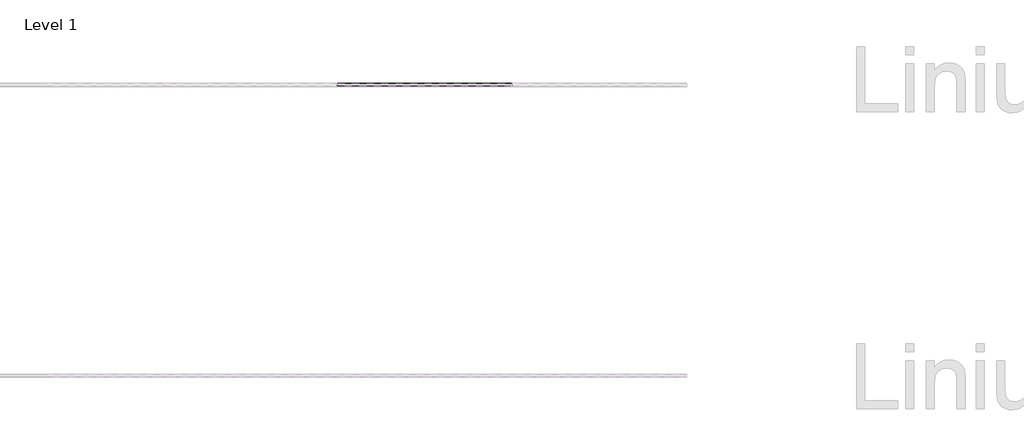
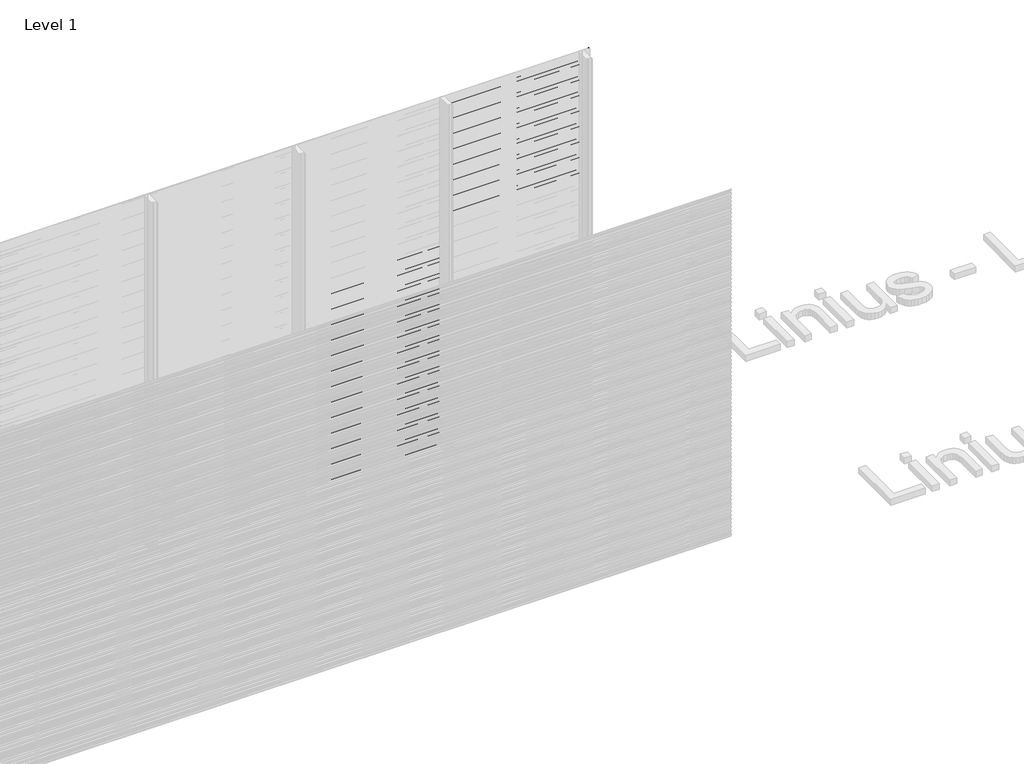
# One storey, part 27 of 507: 84 proxies.
"""IFC4 building model written with IfcOpenShell, lengths in millimetres."""

from ifc_helpers import new_model, si_unit, frame, origin, place, context, project, spatial, polyline, outline, extrude, element, save

model = new_model("IFC4")

# Units and contexts
model_context = context("Model", 3, world=origin())
ifc_project = project(units=[si_unit("LENGTHUNIT", "METRE", prefix="MILLI")], contexts=[model_context])

# Site, building, storey
site = spatial("IfcSite", under=ifc_project)
building = spatial("IfcBuilding", under=site)
storey = spatial("IfcBuildingStorey", under=building, Name="Level 1", Elevation=0.0)

# Proxies
placement = place(None, origin())
element("IfcBuildingElementProxy", 1, Name="Wall Sweeps", at=placement, inside=storey, context=model_context, shape_type="SweptSolid", body=[
    extrude(outline(polyline([(14003.4540136, 1707.6), (14003.4540136, 1694.1), (14002.2040136, 1694.8216933), (14002.2040136, 1706.8782281), (13983.0540136, 1717.9345698), (13983.0540136, 1731.6), (13984.3040136, 1731.6), (13984.3040136, 1718.6562577), (14003.4540136, 1707.6)])), frame((48566.6208096, 0.0, 0.0), z_axis=(1.0, 0.0, 0.0), x_axis=(0.0, 1.0, 0.0)), (0.0, 0.0, 1.0), 1199.9999999),
])
element("IfcBuildingElementProxy", 2, Name="Wall Sweeps", at=placement, inside=storey, context=model_context, shape_type="SweptSolid", body=[
    extrude(outline(polyline([(14003.4540136, 1674.3), (14003.4540136, 1660.8), (14002.2040136, 1661.5216933), (14002.2040136, 1673.5782281), (13983.0540136, 1684.6345698), (13983.0540136, 1698.3), (13984.3040136, 1698.3), (13984.3040136, 1685.3562577), (14003.4540136, 1674.3)])), frame((48566.6208096, 0.0, 0.0), z_axis=(1.0, 0.0, 0.0), x_axis=(0.0, 1.0, 0.0)), (0.0, 0.0, 1.0), 1199.9999999),
])
element("IfcBuildingElementProxy", 3, Name="Wall Sweeps", at=placement, inside=storey, context=model_context, shape_type="SweptSolid", body=[
    extrude(outline(polyline([(14003.4540136, 1641.0), (14003.4540136, 1627.5), (14002.2040136, 1628.2216933), (14002.2040136, 1640.2782281), (13983.0540136, 1651.3345698), (13983.0540136, 1665.0), (13984.3040136, 1665.0), (13984.3040136, 1652.0562577), (14003.4540136, 1641.0)])), frame((48566.6208096, 0.0, 0.0), z_axis=(1.0, 0.0, 0.0), x_axis=(0.0, 1.0, 0.0)), (0.0, 0.0, 1.0), 1199.9999999),
])
element("IfcBuildingElementProxy", 4, Name="Wall Sweeps", at=placement, inside=storey, context=model_context, shape_type="SweptSolid", body=[
    extrude(outline(polyline([(14003.4540136, 1607.7), (14003.4540136, 1594.2), (14002.2040136, 1594.9216933), (14002.2040136, 1606.9782281), (13983.0540136, 1618.0345698), (13983.0540136, 1631.7), (13984.3040136, 1631.7), (13984.3040136, 1618.7562577), (14003.4540136, 1607.7)])), frame((48566.6208096, 0.0, 0.0), z_axis=(1.0, 0.0, 0.0), x_axis=(0.0, 1.0, 0.0)), (0.0, 0.0, 1.0), 1199.9999999),
])
element("IfcBuildingElementProxy", 5, Name="Wall Sweeps", at=placement, inside=storey, context=model_context, shape_type="SweptSolid", body=[
    extrude(outline(polyline([(14003.4540136, 1574.4), (14003.4540136, 1560.9), (14002.2040136, 1561.6216933), (14002.2040136, 1573.6782281), (13983.0540136, 1584.7345698), (13983.0540136, 1598.4), (13984.3040136, 1598.4), (13984.3040136, 1585.4562577), (14003.4540136, 1574.4)])), frame((48566.6208096, 0.0, 0.0), z_axis=(1.0, 0.0, 0.0), x_axis=(0.0, 1.0, 0.0)), (0.0, 0.0, 1.0), 1199.9999999),
])
element("IfcBuildingElementProxy", 6, Name="Wall Sweeps", at=placement, inside=storey, context=model_context, shape_type="SweptSolid", body=[
    extrude(outline(polyline([(14003.4540136, 1541.1), (14003.4540136, 1527.6), (14002.2040136, 1528.3216933), (14002.2040136, 1540.3782281), (13983.0540136, 1551.4345698), (13983.0540136, 1565.1), (13984.3040136, 1565.1), (13984.3040136, 1552.1562577), (14003.4540136, 1541.1)])), frame((48566.6208096, 0.0, 0.0), z_axis=(1.0, 0.0, 0.0), x_axis=(0.0, 1.0, 0.0)), (0.0, 0.0, 1.0), 1199.9999999),
])
element("IfcBuildingElementProxy", 7, Name="Wall Sweeps", at=placement, inside=storey, context=model_context, shape_type="SweptSolid", body=[
    extrude(outline(polyline([(14003.4540136, 1507.8), (14003.4540136, 1494.3), (14002.2040136, 1495.0216933), (14002.2040136, 1507.0782281), (13983.0540136, 1518.1345698), (13983.0540136, 1531.8), (13984.3040136, 1531.8), (13984.3040136, 1518.8562577), (14003.4540136, 1507.8)])), frame((48566.6208096, 0.0, 0.0), z_axis=(1.0, 0.0, 0.0), x_axis=(0.0, 1.0, 0.0)), (0.0, 0.0, 1.0), 1199.9999999),
])
element("IfcBuildingElementProxy", 8, Name="Wall Sweeps", at=placement, inside=storey, context=model_context, shape_type="SweptSolid", body=[
    extrude(outline(polyline([(14003.4540136, 1474.5), (14003.4540136, 1461.0), (14002.2040136, 1461.7216933), (14002.2040136, 1473.7782281), (13983.0540136, 1484.8345698), (13983.0540136, 1498.5), (13984.3040136, 1498.5), (13984.3040136, 1485.5562577), (14003.4540136, 1474.5)])), frame((48566.6208096, 0.0, 0.0), z_axis=(1.0, 0.0, 0.0), x_axis=(0.0, 1.0, 0.0)), (0.0, 0.0, 1.0), 1199.9999999),
])
element("IfcBuildingElementProxy", 9, Name="Wall Sweeps", at=placement, inside=storey, context=model_context, shape_type="SweptSolid", body=[
    extrude(outline(polyline([(14003.4540136, 1441.2), (14003.4540136, 1427.7), (14002.2040136, 1428.4216933), (14002.2040136, 1440.4782281), (13983.0540136, 1451.5345698), (13983.0540136, 1465.2), (13984.3040136, 1465.2), (13984.3040136, 1452.2562577), (14003.4540136, 1441.2)])), frame((48566.6208096, 0.0, 0.0), z_axis=(1.0, 0.0, 0.0), x_axis=(0.0, 1.0, 0.0)), (0.0, 0.0, 1.0), 1199.9999999),
])
element("IfcBuildingElementProxy", 10, Name="Wall Sweeps", at=placement, inside=storey, context=model_context, shape_type="SweptSolid", body=[
    extrude(outline(polyline([(14003.4540136, 1407.9), (14003.4540136, 1394.4), (14002.2040136, 1395.1216933), (14002.2040136, 1407.1782281), (13983.0540136, 1418.2345698), (13983.0540136, 1431.9), (13984.3040136, 1431.9), (13984.3040136, 1418.9562577), (14003.4540136, 1407.9)])), frame((48566.6208096, 0.0, 0.0), z_axis=(1.0, 0.0, 0.0), x_axis=(0.0, 1.0, 0.0)), (0.0, 0.0, 1.0), 1199.9999999),
])
element("IfcBuildingElementProxy", 11, Name="Wall Sweeps", at=placement, inside=storey, context=model_context, shape_type="SweptSolid", body=[
    extrude(outline(polyline([(14003.4540136, 1374.6), (14003.4540136, 1361.1), (14002.2040136, 1361.8216933), (14002.2040136, 1373.8782281), (13983.0540136, 1384.9345698), (13983.0540136, 1398.6), (13984.3040136, 1398.6), (13984.3040136, 1385.6562577), (14003.4540136, 1374.6)])), frame((48566.6208096, 0.0, 0.0), z_axis=(1.0, 0.0, 0.0), x_axis=(0.0, 1.0, 0.0)), (0.0, 0.0, 1.0), 1199.9999999),
])
element("IfcBuildingElementProxy", 12, Name="Wall Sweeps", at=placement, inside=storey, context=model_context, shape_type="SweptSolid", body=[
    extrude(outline(polyline([(14003.4540136, 1341.3), (14003.4540136, 1327.8), (14002.2040136, 1328.5216933), (14002.2040136, 1340.5782281), (13983.0540136, 1351.6345698), (13983.0540136, 1365.3), (13984.3040136, 1365.3), (13984.3040136, 1352.3562577), (14003.4540136, 1341.3)])), frame((48566.6208096, 0.0, 0.0), z_axis=(1.0, 0.0, 0.0), x_axis=(0.0, 1.0, 0.0)), (0.0, 0.0, 1.0), 1199.9999999),
])
element("IfcBuildingElementProxy", 13, Name="Wall Sweeps", at=placement, inside=storey, context=model_context, shape_type="SweptSolid", body=[
    extrude(outline(polyline([(14003.4540136, 1308.0), (14003.4540136, 1294.5), (14002.2040136, 1295.2216933), (14002.2040136, 1307.2782281), (13983.0540136, 1318.3345698), (13983.0540136, 1332.0), (13984.3040136, 1332.0), (13984.3040136, 1319.0562577), (14003.4540136, 1308.0)])), frame((48566.6208096, 0.0, 0.0), z_axis=(1.0, 0.0, 0.0), x_axis=(0.0, 1.0, 0.0)), (0.0, 0.0, 1.0), 1199.9999999),
])
element("IfcBuildingElementProxy", 14, Name="Wall Sweeps", at=placement, inside=storey, context=model_context, shape_type="SweptSolid", body=[
    extrude(outline(polyline([(14003.4540136, 1274.7), (14003.4540136, 1261.2), (14002.2040136, 1261.9216933), (14002.2040136, 1273.9782281), (13983.0540136, 1285.0345698), (13983.0540136, 1298.7), (13984.3040136, 1298.7), (13984.3040136, 1285.7562577), (14003.4540136, 1274.7)])), frame((48566.6208096, 0.0, 0.0), z_axis=(1.0, 0.0, 0.0), x_axis=(0.0, 1.0, 0.0)), (0.0, 0.0, 1.0), 1199.9999999),
])
element("IfcBuildingElementProxy", 15, Name="Wall Sweeps", at=placement, inside=storey, context=model_context, shape_type="SweptSolid", body=[
    extrude(outline(polyline([(14003.4540136, 1241.4), (14003.4540136, 1227.9), (14002.2040136, 1228.6216933), (14002.2040136, 1240.6782281), (13983.0540136, 1251.7345698), (13983.0540136, 1265.4), (13984.3040136, 1265.4), (13984.3040136, 1252.4562577), (14003.4540136, 1241.4)])), frame((48566.6208096, 0.0, 0.0), z_axis=(1.0, 0.0, 0.0), x_axis=(0.0, 1.0, 0.0)), (0.0, 0.0, 1.0), 1199.9999999),
])
element("IfcBuildingElementProxy", 16, Name="Wall Sweeps", at=placement, inside=storey, context=model_context, shape_type="SweptSolid", body=[
    extrude(outline(polyline([(14003.4540136, 1208.1), (14003.4540136, 1194.6), (14002.2040136, 1195.3216933), (14002.2040136, 1207.3782281), (13983.0540136, 1218.4345698), (13983.0540136, 1232.1), (13984.3040136, 1232.1), (13984.3040136, 1219.1562577), (14003.4540136, 1208.1)])), frame((48566.6208096, 0.0, 0.0), z_axis=(1.0, 0.0, 0.0), x_axis=(0.0, 1.0, 0.0)), (0.0, 0.0, 1.0), 1199.9999999),
])
element("IfcBuildingElementProxy", 17, Name="Wall Sweeps", at=placement, inside=storey, context=model_context, shape_type="SweptSolid", body=[
    extrude(outline(polyline([(14003.4540136, 1174.8), (14003.4540136, 1161.3), (14002.2040136, 1162.0216933), (14002.2040136, 1174.0782281), (13983.0540136, 1185.1345698), (13983.0540136, 1198.8), (13984.3040136, 1198.8), (13984.3040136, 1185.8562577), (14003.4540136, 1174.8)])), frame((48566.6208096, 0.0, 0.0), z_axis=(1.0, 0.0, 0.0), x_axis=(0.0, 1.0, 0.0)), (0.0, 0.0, 1.0), 1199.9999999),
])
element("IfcBuildingElementProxy", 18, Name="Wall Sweeps", at=placement, inside=storey, context=model_context, shape_type="SweptSolid", body=[
    extrude(outline(polyline([(14003.4540136, 1141.5), (14003.4540136, 1128.0), (14002.2040136, 1128.7216933), (14002.2040136, 1140.7782281), (13983.0540136, 1151.8345698), (13983.0540136, 1165.5), (13984.3040136, 1165.5), (13984.3040136, 1152.5562577), (14003.4540136, 1141.5)])), frame((48566.6208096, 0.0, 0.0), z_axis=(1.0, 0.0, 0.0), x_axis=(0.0, 1.0, 0.0)), (0.0, 0.0, 1.0), 1199.9999999),
])
element("IfcBuildingElementProxy", 19, Name="Wall Sweeps", at=placement, inside=storey, context=model_context, shape_type="SweptSolid", body=[
    extrude(outline(polyline([(14003.4540136, 1108.2), (14003.4540136, 1094.7), (14002.2040136, 1095.4216933), (14002.2040136, 1107.4782281), (13983.0540136, 1118.5345698), (13983.0540136, 1132.2), (13984.3040136, 1132.2), (13984.3040136, 1119.2562577), (14003.4540136, 1108.2)])), frame((48566.6208096, 0.0, 0.0), z_axis=(1.0, 0.0, 0.0), x_axis=(0.0, 1.0, 0.0)), (0.0, 0.0, 1.0), 1199.9999999),
])
element("IfcBuildingElementProxy", 20, Name="Wall Sweeps", at=placement, inside=storey, context=model_context, shape_type="SweptSolid", body=[
    extrude(outline(polyline([(14003.4540136, 1074.9), (14003.4540136, 1061.4), (14002.2040136, 1062.1216933), (14002.2040136, 1074.1782281), (13983.0540136, 1085.2345698), (13983.0540136, 1098.9), (13984.3040136, 1098.9), (13984.3040136, 1085.9562577), (14003.4540136, 1074.9)])), frame((48566.6208096, 0.0, 0.0), z_axis=(1.0, 0.0, 0.0), x_axis=(0.0, 1.0, 0.0)), (0.0, 0.0, 1.0), 1199.9999999),
])
element("IfcBuildingElementProxy", 21, Name="Wall Sweeps", at=placement, inside=storey, context=model_context, shape_type="SweptSolid", body=[
    extrude(outline(polyline([(14003.4540136, 1041.6), (14003.4540136, 1028.1), (14002.2040136, 1028.8216933), (14002.2040136, 1040.8782281), (13983.0540136, 1051.9345698), (13983.0540136, 1065.6), (13984.3040136, 1065.6), (13984.3040136, 1052.6562577), (14003.4540136, 1041.6)])), frame((48566.6208096, 0.0, 0.0), z_axis=(1.0, 0.0, 0.0), x_axis=(0.0, 1.0, 0.0)), (0.0, 0.0, 1.0), 1199.9999999),
])
element("IfcBuildingElementProxy", 22, Name="Wall Sweeps", at=placement, inside=storey, context=model_context, shape_type="SweptSolid", body=[
    extrude(outline(polyline([(14003.4540136, 1008.3), (14003.4540136, 994.8), (14002.2040136, 995.5216933), (14002.2040136, 1007.5782281), (13983.0540136, 1018.6345698), (13983.0540136, 1032.3), (13984.3040136, 1032.3), (13984.3040136, 1019.3562577), (14003.4540136, 1008.3)])), frame((48566.6208096, 0.0, 0.0), z_axis=(1.0, 0.0, 0.0), x_axis=(0.0, 1.0, 0.0)), (0.0, 0.0, 1.0), 1199.9999999),
])
element("IfcBuildingElementProxy", 23, Name="Wall Sweeps", at=placement, inside=storey, context=model_context, shape_type="SweptSolid", body=[
    extrude(outline(polyline([(14003.4540136, 975.0), (14003.4540136, 961.5), (14002.2040136, 962.2216933), (14002.2040136, 974.2782281), (13983.0540136, 985.3345698), (13983.0540136, 999.0), (13984.3040136, 999.0), (13984.3040136, 986.0562577), (14003.4540136, 975.0)])), frame((48566.6208096, 0.0, 0.0), z_axis=(1.0, 0.0, 0.0), x_axis=(0.0, 1.0, 0.0)), (0.0, 0.0, 1.0), 1199.9999999),
])
element("IfcBuildingElementProxy", 24, Name="Wall Sweeps", at=placement, inside=storey, context=model_context, shape_type="SweptSolid", body=[
    extrude(outline(polyline([(14003.4540136, 941.7), (14003.4540136, 928.2), (14002.2040136, 928.9216933), (14002.2040136, 940.9782281), (13983.0540136, 952.0345698), (13983.0540136, 965.7), (13984.3040136, 965.7), (13984.3040136, 952.7562577), (14003.4540136, 941.7)])), frame((48566.6208096, 0.0, 0.0), z_axis=(1.0, 0.0, 0.0), x_axis=(0.0, 1.0, 0.0)), (0.0, 0.0, 1.0), 1199.9999999),
])
element("IfcBuildingElementProxy", 25, Name="Wall Sweeps", at=placement, inside=storey, context=model_context, shape_type="SweptSolid", body=[
    extrude(outline(polyline([(14003.4540136, 908.4), (14003.4540136, 894.9), (14002.2040136, 895.6216933), (14002.2040136, 907.6782281), (13983.0540136, 918.7345698), (13983.0540136, 932.4), (13984.3040136, 932.4), (13984.3040136, 919.4562577), (14003.4540136, 908.4)])), frame((48566.6208096, 0.0, 0.0), z_axis=(1.0, 0.0, 0.0), x_axis=(0.0, 1.0, 0.0)), (0.0, 0.0, 1.0), 1199.9999999),
])
element("IfcBuildingElementProxy", 26, Name="Wall Sweeps", at=placement, inside=storey, context=model_context, shape_type="SweptSolid", body=[
    extrude(outline(polyline([(14003.4540136, 875.1), (14003.4540136, 861.6), (14002.2040136, 862.3216933), (14002.2040136, 874.3782281), (13983.0540136, 885.4345698), (13983.0540136, 899.1), (13984.3040136, 899.1), (13984.3040136, 886.1562577), (14003.4540136, 875.1)])), frame((48566.6208096, 0.0, 0.0), z_axis=(1.0, 0.0, 0.0), x_axis=(0.0, 1.0, 0.0)), (0.0, 0.0, 1.0), 1199.9999999),
])
element("IfcBuildingElementProxy", 27, Name="Wall Sweeps", at=placement, inside=storey, context=model_context, shape_type="SweptSolid", body=[
    extrude(outline(polyline([(14003.4540136, 841.8), (14003.4540136, 828.3), (14002.2040136, 829.0216933), (14002.2040136, 841.0782281), (13983.0540136, 852.1345698), (13983.0540136, 865.8), (13984.3040136, 865.8), (13984.3040136, 852.8562577), (14003.4540136, 841.8)])), frame((48566.6208096, 0.0, 0.0), z_axis=(1.0, 0.0, 0.0), x_axis=(0.0, 1.0, 0.0)), (0.0, 0.0, 1.0), 1199.9999999),
])
element("IfcBuildingElementProxy", 28, Name="Wall Sweeps", at=placement, inside=storey, context=model_context, shape_type="SweptSolid", body=[
    extrude(outline(polyline([(14003.4540136, 808.5), (14003.4540136, 795.0), (14002.2040136, 795.7216933), (14002.2040136, 807.7782281), (13983.0540136, 818.8345698), (13983.0540136, 832.5), (13984.3040136, 832.5), (13984.3040136, 819.5562577), (14003.4540136, 808.5)])), frame((48566.6208096, 0.0, 0.0), z_axis=(1.0, 0.0, 0.0), x_axis=(0.0, 1.0, 0.0)), (0.0, 0.0, 1.0), 1199.9999999),
])
element("IfcBuildingElementProxy", 29, Name="Wall Sweeps", at=placement, inside=storey, context=model_context, shape_type="SweptSolid", body=[
    extrude(outline(polyline([(14003.4540136, 775.2), (14003.4540136, 761.7), (14002.2040136, 762.4216933), (14002.2040136, 774.4782281), (13983.0540136, 785.5345698), (13983.0540136, 799.2), (13984.3040136, 799.2), (13984.3040136, 786.2562577), (14003.4540136, 775.2)])), frame((48566.6208096, 0.0, 0.0), z_axis=(1.0, 0.0, 0.0), x_axis=(0.0, 1.0, 0.0)), (0.0, 0.0, 1.0), 1199.9999999),
])
element("IfcBuildingElementProxy", 30, Name="Wall Sweeps", at=placement, inside=storey, context=model_context, shape_type="SweptSolid", body=[
    extrude(outline(polyline([(14003.4540136, 741.9), (14003.4540136, 728.4), (14002.2040136, 729.1216933), (14002.2040136, 741.1782281), (13983.0540136, 752.2345698), (13983.0540136, 765.9), (13984.3040136, 765.9), (13984.3040136, 752.9562577), (14003.4540136, 741.9)])), frame((48566.6208096, 0.0, 0.0), z_axis=(1.0, 0.0, 0.0), x_axis=(0.0, 1.0, 0.0)), (0.0, 0.0, 1.0), 1199.9999999),
])
element("IfcBuildingElementProxy", 31, Name="Wall Sweeps", at=placement, inside=storey, context=model_context, shape_type="SweptSolid", body=[
    extrude(outline(polyline([(14003.4540136, 708.6), (14003.4540136, 695.1), (14002.2040136, 695.8216933), (14002.2040136, 707.8782281), (13983.0540136, 718.9345698), (13983.0540136, 732.6), (13984.3040136, 732.6), (13984.3040136, 719.6562577), (14003.4540136, 708.6)])), frame((48566.6208096, 0.0, 0.0), z_axis=(1.0, 0.0, 0.0), x_axis=(0.0, 1.0, 0.0)), (0.0, 0.0, 1.0), 1199.9999999),
])
element("IfcBuildingElementProxy", 32, Name="Wall Sweeps", at=placement, inside=storey, context=model_context, shape_type="SweptSolid", body=[
    extrude(outline(polyline([(14003.4540136, 675.3), (14003.4540136, 661.8), (14002.2040136, 662.5216933), (14002.2040136, 674.5782281), (13983.0540136, 685.6345698), (13983.0540136, 699.3), (13984.3040136, 699.3), (13984.3040136, 686.3562577), (14003.4540136, 675.3)])), frame((48566.6208096, 0.0, 0.0), z_axis=(1.0, 0.0, 0.0), x_axis=(0.0, 1.0, 0.0)), (0.0, 0.0, 1.0), 1199.9999999),
])
element("IfcBuildingElementProxy", 33, Name="Wall Sweeps", at=placement, inside=storey, context=model_context, shape_type="SweptSolid", body=[
    extrude(outline(polyline([(14003.4540136, 642.0), (14003.4540136, 628.5), (14002.2040136, 629.2216933), (14002.2040136, 641.2782281), (13983.0540136, 652.3345698), (13983.0540136, 666.0), (13984.3040136, 666.0), (13984.3040136, 653.0562577), (14003.4540136, 642.0)])), frame((48566.6208096, 0.0, 0.0), z_axis=(1.0, 0.0, 0.0), x_axis=(0.0, 1.0, 0.0)), (0.0, 0.0, 1.0), 1199.9999999),
])
element("IfcBuildingElementProxy", 34, Name="Wall Sweeps", at=placement, inside=storey, context=model_context, shape_type="SweptSolid", body=[
    extrude(outline(polyline([(14003.4540136, 608.7), (14003.4540136, 595.2), (14002.2040136, 595.9216933), (14002.2040136, 607.9782281), (13983.0540136, 619.0345698), (13983.0540136, 632.7), (13984.3040136, 632.7), (13984.3040136, 619.7562577), (14003.4540136, 608.7)])), frame((48566.6208096, 0.0, 0.0), z_axis=(1.0, 0.0, 0.0), x_axis=(0.0, 1.0, 0.0)), (0.0, 0.0, 1.0), 1199.9999999),
])
element("IfcBuildingElementProxy", 35, Name="Wall Sweeps", at=placement, inside=storey, context=model_context, shape_type="SweptSolid", body=[
    extrude(outline(polyline([(14003.4540136, 575.4), (14003.4540136, 561.9), (14002.2040136, 562.6216933), (14002.2040136, 574.6782281), (13983.0540136, 585.7345698), (13983.0540136, 599.4), (13984.3040136, 599.4), (13984.3040136, 586.4562577), (14003.4540136, 575.4)])), frame((48566.6208096, 0.0, 0.0), z_axis=(1.0, 0.0, 0.0), x_axis=(0.0, 1.0, 0.0)), (0.0, 0.0, 1.0), 1199.9999999),
])
element("IfcBuildingElementProxy", 36, Name="Wall Sweeps", at=placement, inside=storey, context=model_context, shape_type="SweptSolid", body=[
    extrude(outline(polyline([(14003.4540136, 542.1), (14003.4540136, 528.6), (14002.2040136, 529.3216933), (14002.2040136, 541.3782281), (13983.0540136, 552.4345698), (13983.0540136, 566.1), (13984.3040136, 566.1), (13984.3040136, 553.1562577), (14003.4540136, 542.1)])), frame((48566.6208096, 0.0, 0.0), z_axis=(1.0, 0.0, 0.0), x_axis=(0.0, 1.0, 0.0)), (0.0, 0.0, 1.0), 1199.9999999),
])
element("IfcBuildingElementProxy", 37, Name="Wall Sweeps", at=placement, inside=storey, context=model_context, shape_type="SweptSolid", body=[
    extrude(outline(polyline([(14003.4540136, 508.8), (14003.4540136, 495.3), (14002.2040136, 496.0216933), (14002.2040136, 508.0782281), (13983.0540136, 519.1345698), (13983.0540136, 532.8), (13984.3040136, 532.8), (13984.3040136, 519.8562577), (14003.4540136, 508.8)])), frame((48566.6208096, 0.0, 0.0), z_axis=(1.0, 0.0, 0.0), x_axis=(0.0, 1.0, 0.0)), (0.0, 0.0, 1.0), 1199.9999999),
])
element("IfcBuildingElementProxy", 38, Name="Wall Sweeps", at=placement, inside=storey, context=model_context, shape_type="SweptSolid", body=[
    extrude(outline(polyline([(14003.4540136, 475.5), (14003.4540136, 462.0), (14002.2040136, 462.7216933), (14002.2040136, 474.7782281), (13983.0540136, 485.8345698), (13983.0540136, 499.5), (13984.3040136, 499.5), (13984.3040136, 486.5562577), (14003.4540136, 475.5)])), frame((48566.6208096, 0.0, 0.0), z_axis=(1.0, 0.0, 0.0), x_axis=(0.0, 1.0, 0.0)), (0.0, 0.0, 1.0), 1199.9999999),
])
element("IfcBuildingElementProxy", 39, Name="Wall Sweeps", at=placement, inside=storey, context=model_context, shape_type="SweptSolid", body=[
    extrude(outline(polyline([(14003.4540136, 442.2), (14003.4540136, 428.7), (14002.2040136, 429.4216933), (14002.2040136, 441.4782281), (13983.0540136, 452.5345698), (13983.0540136, 466.2), (13984.3040136, 466.2), (13984.3040136, 453.2562577), (14003.4540136, 442.2)])), frame((48566.6208096, 0.0, 0.0), z_axis=(1.0, 0.0, 0.0), x_axis=(0.0, 1.0, 0.0)), (0.0, 0.0, 1.0), 1199.9999999),
])
element("IfcBuildingElementProxy", 40, Name="Wall Sweeps", at=placement, inside=storey, context=model_context, shape_type="SweptSolid", body=[
    extrude(outline(polyline([(14003.4540136, 408.9), (14003.4540136, 395.4), (14002.2040136, 396.1216933), (14002.2040136, 408.1782281), (13983.0540136, 419.2345698), (13983.0540136, 432.9), (13984.3040136, 432.9), (13984.3040136, 419.9562577), (14003.4540136, 408.9)])), frame((48566.6208096, 0.0, 0.0), z_axis=(1.0, 0.0, 0.0), x_axis=(0.0, 1.0, 0.0)), (0.0, 0.0, 1.0), 1199.9999999),
])
element("IfcBuildingElementProxy", 41, Name="Wall Sweeps", at=placement, inside=storey, context=model_context, shape_type="SweptSolid", body=[
    extrude(outline(polyline([(14003.4540136, 375.6), (14003.4540136, 362.1), (14002.2040136, 362.8216933), (14002.2040136, 374.8782281), (13983.0540136, 385.9345698), (13983.0540136, 399.6), (13984.3040136, 399.6), (13984.3040136, 386.6562577), (14003.4540136, 375.6)])), frame((48566.6208096, 0.0, 0.0), z_axis=(1.0, 0.0, 0.0), x_axis=(0.0, 1.0, 0.0)), (0.0, 0.0, 1.0), 1199.9999999),
])
element("IfcBuildingElementProxy", 42, Name="Wall Sweeps", at=placement, inside=storey, context=model_context, shape_type="SweptSolid", body=[
    extrude(outline(polyline([(14003.4540136, 342.3), (14003.4540136, 328.8), (14002.2040136, 329.5216933), (14002.2040136, 341.5782281), (13983.0540136, 352.6345698), (13983.0540136, 366.3), (13984.3040136, 366.3), (13984.3040136, 353.3562577), (14003.4540136, 342.3)])), frame((48566.6208096, 0.0, 0.0), z_axis=(1.0, 0.0, 0.0), x_axis=(0.0, 1.0, 0.0)), (0.0, 0.0, 1.0), 1199.9999999),
])
element("IfcBuildingElementProxy", 43, Name="Wall Sweeps", at=placement, inside=storey, context=model_context, shape_type="SweptSolid", body=[
    extrude(outline(polyline([(14003.4540136, 309.0), (14003.4540136, 295.5), (14002.2040136, 296.2216933), (14002.2040136, 308.2782281), (13983.0540136, 319.3345698), (13983.0540136, 333.0), (13984.3040136, 333.0), (13984.3040136, 320.0562577), (14003.4540136, 309.0)])), frame((48566.6208096, 0.0, 0.0), z_axis=(1.0, 0.0, 0.0), x_axis=(0.0, 1.0, 0.0)), (0.0, 0.0, 1.0), 1199.9999999),
])
element("IfcBuildingElementProxy", 44, Name="Wall Sweeps", at=placement, inside=storey, context=model_context, shape_type="SweptSolid", body=[
    extrude(outline(polyline([(14003.4540136, 275.7), (14003.4540136, 262.2), (14002.2040136, 262.9216933), (14002.2040136, 274.9782281), (13983.0540136, 286.0345698), (13983.0540136, 299.7), (13984.3040136, 299.7), (13984.3040136, 286.7562577), (14003.4540136, 275.7)])), frame((48566.6208096, 0.0, 0.0), z_axis=(1.0, 0.0, 0.0), x_axis=(0.0, 1.0, 0.0)), (0.0, 0.0, 1.0), 1199.9999999),
])
element("IfcBuildingElementProxy", 45, Name="Wall Sweeps", at=placement, inside=storey, context=model_context, shape_type="SweptSolid", body=[
    extrude(outline(polyline([(14003.4540136, 242.4), (14003.4540136, 228.9), (14002.2040136, 229.6216933), (14002.2040136, 241.6782281), (13983.0540136, 252.7345698), (13983.0540136, 266.4), (13984.3040136, 266.4), (13984.3040136, 253.4562577), (14003.4540136, 242.4)])), frame((48566.6208096, 0.0, 0.0), z_axis=(1.0, 0.0, 0.0), x_axis=(0.0, 1.0, 0.0)), (0.0, 0.0, 1.0), 1199.9999999),
])
element("IfcBuildingElementProxy", 46, Name="Wall Sweeps", at=placement, inside=storey, context=model_context, shape_type="SweptSolid", body=[
    extrude(outline(polyline([(14003.4540136, 209.1), (14003.4540136, 195.6), (14002.2040136, 196.3216933), (14002.2040136, 208.3782281), (13983.0540136, 219.4345698), (13983.0540136, 233.1), (13984.3040136, 233.1), (13984.3040136, 220.1562577), (14003.4540136, 209.1)])), frame((48566.6208096, 0.0, 0.0), z_axis=(1.0, 0.0, 0.0), x_axis=(0.0, 1.0, 0.0)), (0.0, 0.0, 1.0), 1199.9999999),
])
element("IfcBuildingElementProxy", 47, Name="Wall Sweeps", at=placement, inside=storey, context=model_context, shape_type="SweptSolid", body=[
    extrude(outline(polyline([(14003.4540136, 175.8), (14003.4540136, 162.3), (14002.2040136, 163.0216933), (14002.2040136, 175.0782281), (13983.0540136, 186.1345698), (13983.0540136, 199.8), (13984.3040136, 199.8), (13984.3040136, 186.8562577), (14003.4540136, 175.8)])), frame((48566.6208096, 0.0, 0.0), z_axis=(1.0, 0.0, 0.0), x_axis=(0.0, 1.0, 0.0)), (0.0, 0.0, 1.0), 1199.9999999),
])
element("IfcBuildingElementProxy", 48, Name="Wall Sweeps", at=placement, inside=storey, context=model_context, shape_type="SweptSolid", body=[
    extrude(outline(polyline([(14003.4540136, 142.5), (14003.4540136, 129.0), (14002.2040136, 129.7216933), (14002.2040136, 141.7782281), (13983.0540136, 152.8345698), (13983.0540136, 166.5), (13984.3040136, 166.5), (13984.3040136, 153.5562577), (14003.4540136, 142.5)])), frame((48566.6208096, 0.0, 0.0), z_axis=(1.0, 0.0, 0.0), x_axis=(0.0, 1.0, 0.0)), (0.0, 0.0, 1.0), 1199.9999999),
])
element("IfcBuildingElementProxy", 49, Name="Wall Sweeps", at=placement, inside=storey, context=model_context, shape_type="SweptSolid", body=[
    extrude(outline(polyline([(14003.4540136, 109.2), (14003.4540136, 95.7), (14002.2040136, 96.4216933), (14002.2040136, 108.4782281), (13983.0540136, 119.5345698), (13983.0540136, 133.2), (13984.3040136, 133.2), (13984.3040136, 120.2562577), (14003.4540136, 109.2)])), frame((48566.6208096, 0.0, 0.0), z_axis=(1.0, 0.0, 0.0), x_axis=(0.0, 1.0, 0.0)), (0.0, 0.0, 1.0), 1199.9999999),
])
element("IfcBuildingElementProxy", 50, Name="Wall Sweeps", at=placement, inside=storey, context=model_context, shape_type="SweptSolid", body=[
    extrude(outline(polyline([(14003.4540136, 75.9), (14003.4540136, 62.4), (14002.2040136, 63.1216933), (14002.2040136, 75.1782281), (13983.0540136, 86.2345698), (13983.0540136, 99.9), (13984.3040136, 99.9), (13984.3040136, 86.9562577), (14003.4540136, 75.9)])), frame((48566.6208096, 0.0, 0.0), z_axis=(1.0, 0.0, 0.0), x_axis=(0.0, 1.0, 0.0)), (0.0, 0.0, 1.0), 1199.9999999),
])
element("IfcBuildingElementProxy", 51, Name="Wall Sweeps", at=placement, inside=storey, context=model_context, shape_type="SweptSolid", body=[
    extrude(outline(polyline([(14003.4540136, 42.6), (14003.4540136, 29.1), (14002.2040136, 29.8216933), (14002.2040136, 41.8782281), (13983.0540136, 52.9345698), (13983.0540136, 66.6), (13984.3040136, 66.6), (13984.3040136, 53.6562577), (14003.4540136, 42.6)])), frame((48566.6208096, 0.0, 0.0), z_axis=(1.0, 0.0, 0.0), x_axis=(0.0, 1.0, 0.0)), (0.0, 0.0, 1.0), 1199.9999999),
])
element("IfcBuildingElementProxy", 52, Name="Wall Sweeps", at=placement, inside=storey, context=model_context, shape_type="SweptSolid", body=[
    extrude(outline(polyline([(14003.4540136, 9.3), (14003.4540136, -4.2), (14002.2040136, -3.4783067), (14002.2040136, 8.5782281), (13983.0540136, 19.6345698), (13983.0540136, 33.3), (13984.3040136, 33.3), (13984.3040136, 20.3562577), (14003.4540136, 9.3)])), frame((48566.6208096, 0.0, 0.0), z_axis=(1.0, 0.0, 0.0), x_axis=(0.0, 1.0, 0.0)), (0.0, 0.0, 1.0), 1199.9999999),
])
element("IfcBuildingElementProxy", 53, Name="Wall Sweeps", at=placement, inside=storey, context=model_context, shape_type="SweptSolid", body=[
    extrude(outline(polyline([(14003.4540136, 2973.0), (14003.4540136, 2959.5), (14002.2040136, 2960.2216933), (14002.2040136, 2972.2782281), (13983.0540136, 2983.3345698), (13983.0540136, 2997.0), (13984.3040136, 2997.0), (13984.3040136, 2984.0562577), (14003.4540136, 2973.0)])), frame((49766.6208095, 0.0, 0.0), z_axis=(1.0, 0.0, 0.0), x_axis=(0.0, 1.0, 0.0)), (0.0, 0.0, 1.0), 1200.0000002),
])
element("IfcBuildingElementProxy", 54, Name="Wall Sweeps", at=placement, inside=storey, context=model_context, shape_type="SweptSolid", body=[
    extrude(outline(polyline([(14003.4540136, 2939.7), (14003.4540136, 2926.2), (14002.2040136, 2926.9216933), (14002.2040136, 2938.9782281), (13983.0540136, 2950.0345698), (13983.0540136, 2963.7), (13984.3040136, 2963.7), (13984.3040136, 2950.7562577), (14003.4540136, 2939.7)])), frame((49766.6208095, 0.0, 0.0), z_axis=(1.0, 0.0, 0.0), x_axis=(0.0, 1.0, 0.0)), (0.0, 0.0, 1.0), 1200.0000002),
])
element("IfcBuildingElementProxy", 55, Name="Wall Sweeps", at=placement, inside=storey, context=model_context, shape_type="SweptSolid", body=[
    extrude(outline(polyline([(14003.4540136, 2906.4), (14003.4540136, 2892.9), (14002.2040136, 2893.6216933), (14002.2040136, 2905.6782281), (13983.0540136, 2916.7345698), (13983.0540136, 2930.4), (13984.3040136, 2930.4), (13984.3040136, 2917.4562577), (14003.4540136, 2906.4)])), frame((49766.6208095, 0.0, 0.0), z_axis=(1.0, 0.0, 0.0), x_axis=(0.0, 1.0, 0.0)), (0.0, 0.0, 1.0), 1200.0000002),
])
element("IfcBuildingElementProxy", 56, Name="Wall Sweeps", at=placement, inside=storey, context=model_context, shape_type="SweptSolid", body=[
    extrude(outline(polyline([(14003.4540136, 2873.1), (14003.4540136, 2859.6), (14002.2040136, 2860.3216933), (14002.2040136, 2872.3782281), (13983.0540136, 2883.4345698), (13983.0540136, 2897.1), (13984.3040136, 2897.1), (13984.3040136, 2884.1562577), (14003.4540136, 2873.1)])), frame((49766.6208095, 0.0, 0.0), z_axis=(1.0, 0.0, 0.0), x_axis=(0.0, 1.0, 0.0)), (0.0, 0.0, 1.0), 1200.0000002),
])
element("IfcBuildingElementProxy", 57, Name="Wall Sweeps", at=placement, inside=storey, context=model_context, shape_type="SweptSolid", body=[
    extrude(outline(polyline([(14003.4540136, 2839.8), (14003.4540136, 2826.3), (14002.2040136, 2827.0216933), (14002.2040136, 2839.0782281), (13983.0540136, 2850.1345698), (13983.0540136, 2863.8), (13984.3040136, 2863.8), (13984.3040136, 2850.8562577), (14003.4540136, 2839.8)])), frame((49766.6208095, 0.0, 0.0), z_axis=(1.0, 0.0, 0.0), x_axis=(0.0, 1.0, 0.0)), (0.0, 0.0, 1.0), 1200.0000002),
])
element("IfcBuildingElementProxy", 58, Name="Wall Sweeps", at=placement, inside=storey, context=model_context, shape_type="SweptSolid", body=[
    extrude(outline(polyline([(14003.4540136, 2806.5), (14003.4540136, 2793.0), (14002.2040136, 2793.7216933), (14002.2040136, 2805.7782281), (13983.0540136, 2816.8345698), (13983.0540136, 2830.5), (13984.3040136, 2830.5), (13984.3040136, 2817.5562577), (14003.4540136, 2806.5)])), frame((49766.6208095, 0.0, 0.0), z_axis=(1.0, 0.0, 0.0), x_axis=(0.0, 1.0, 0.0)), (0.0, 0.0, 1.0), 1200.0000002),
])
element("IfcBuildingElementProxy", 59, Name="Wall Sweeps", at=placement, inside=storey, context=model_context, shape_type="SweptSolid", body=[
    extrude(outline(polyline([(14003.4540136, 2773.2), (14003.4540136, 2759.7), (14002.2040136, 2760.4216933), (14002.2040136, 2772.4782281), (13983.0540136, 2783.5345698), (13983.0540136, 2797.2), (13984.3040136, 2797.2), (13984.3040136, 2784.2562577), (14003.4540136, 2773.2)])), frame((49766.6208095, 0.0, 0.0), z_axis=(1.0, 0.0, 0.0), x_axis=(0.0, 1.0, 0.0)), (0.0, 0.0, 1.0), 1200.0000002),
])
element("IfcBuildingElementProxy", 60, Name="Wall Sweeps", at=placement, inside=storey, context=model_context, shape_type="SweptSolid", body=[
    extrude(outline(polyline([(14003.4540136, 2739.9), (14003.4540136, 2726.4), (14002.2040136, 2727.1216933), (14002.2040136, 2739.1782281), (13983.0540136, 2750.2345698), (13983.0540136, 2763.9), (13984.3040136, 2763.9), (13984.3040136, 2750.9562577), (14003.4540136, 2739.9)])), frame((49766.6208095, 0.0, 0.0), z_axis=(1.0, 0.0, 0.0), x_axis=(0.0, 1.0, 0.0)), (0.0, 0.0, 1.0), 1200.0000002),
])
element("IfcBuildingElementProxy", 61, Name="Wall Sweeps", at=placement, inside=storey, context=model_context, shape_type="SweptSolid", body=[
    extrude(outline(polyline([(14003.4540136, 2706.6), (14003.4540136, 2693.1), (14002.2040136, 2693.8216933), (14002.2040136, 2705.8782281), (13983.0540136, 2716.9345698), (13983.0540136, 2730.6), (13984.3040136, 2730.6), (13984.3040136, 2717.6562577), (14003.4540136, 2706.6)])), frame((49766.6208095, 0.0, 0.0), z_axis=(1.0, 0.0, 0.0), x_axis=(0.0, 1.0, 0.0)), (0.0, 0.0, 1.0), 1200.0000002),
])
element("IfcBuildingElementProxy", 62, Name="Wall Sweeps", at=placement, inside=storey, context=model_context, shape_type="SweptSolid", body=[
    extrude(outline(polyline([(14003.4540136, 2673.3), (14003.4540136, 2659.8), (14002.2040136, 2660.5216933), (14002.2040136, 2672.5782281), (13983.0540136, 2683.6345698), (13983.0540136, 2697.3), (13984.3040136, 2697.3), (13984.3040136, 2684.3562577), (14003.4540136, 2673.3)])), frame((49766.6208095, 0.0, 0.0), z_axis=(1.0, 0.0, 0.0), x_axis=(0.0, 1.0, 0.0)), (0.0, 0.0, 1.0), 1200.0000002),
])
element("IfcBuildingElementProxy", 63, Name="Wall Sweeps", at=placement, inside=storey, context=model_context, shape_type="SweptSolid", body=[
    extrude(outline(polyline([(14003.4540136, 2640.0), (14003.4540136, 2626.5), (14002.2040136, 2627.2216933), (14002.2040136, 2639.2782281), (13983.0540136, 2650.3345698), (13983.0540136, 2664.0), (13984.3040136, 2664.0), (13984.3040136, 2651.0562577), (14003.4540136, 2640.0)])), frame((49766.6208095, 0.0, 0.0), z_axis=(1.0, 0.0, 0.0), x_axis=(0.0, 1.0, 0.0)), (0.0, 0.0, 1.0), 1200.0000002),
])
element("IfcBuildingElementProxy", 64, Name="Wall Sweeps", at=placement, inside=storey, context=model_context, shape_type="SweptSolid", body=[
    extrude(outline(polyline([(14003.4540136, 2606.7), (14003.4540136, 2593.2), (14002.2040136, 2593.9216933), (14002.2040136, 2605.9782281), (13983.0540136, 2617.0345698), (13983.0540136, 2630.7), (13984.3040136, 2630.7), (13984.3040136, 2617.7562577), (14003.4540136, 2606.7)])), frame((49766.6208095, 0.0, 0.0), z_axis=(1.0, 0.0, 0.0), x_axis=(0.0, 1.0, 0.0)), (0.0, 0.0, 1.0), 1200.0000002),
])
element("IfcBuildingElementProxy", 65, Name="Wall Sweeps", at=placement, inside=storey, context=model_context, shape_type="SweptSolid", body=[
    extrude(outline(polyline([(14003.4540136, 2573.4), (14003.4540136, 2559.9), (14002.2040136, 2560.6216933), (14002.2040136, 2572.6782281), (13983.0540136, 2583.7345698), (13983.0540136, 2597.4), (13984.3040136, 2597.4), (13984.3040136, 2584.4562577), (14003.4540136, 2573.4)])), frame((49766.6208095, 0.0, 0.0), z_axis=(1.0, 0.0, 0.0), x_axis=(0.0, 1.0, 0.0)), (0.0, 0.0, 1.0), 1200.0000002),
])
element("IfcBuildingElementProxy", 66, Name="Wall Sweeps", at=placement, inside=storey, context=model_context, shape_type="SweptSolid", body=[
    extrude(outline(polyline([(14003.4540136, 2540.1), (14003.4540136, 2526.6), (14002.2040136, 2527.3216933), (14002.2040136, 2539.3782281), (13983.0540136, 2550.4345698), (13983.0540136, 2564.1), (13984.3040136, 2564.1), (13984.3040136, 2551.1562577), (14003.4540136, 2540.1)])), frame((49766.6208095, 0.0, 0.0), z_axis=(1.0, 0.0, 0.0), x_axis=(0.0, 1.0, 0.0)), (0.0, 0.0, 1.0), 1200.0000002),
])
element("IfcBuildingElementProxy", 67, Name="Wall Sweeps", at=placement, inside=storey, context=model_context, shape_type="SweptSolid", body=[
    extrude(outline(polyline([(14003.4540136, 2506.8), (14003.4540136, 2493.3), (14002.2040136, 2494.0216933), (14002.2040136, 2506.0782281), (13983.0540136, 2517.1345698), (13983.0540136, 2530.8), (13984.3040136, 2530.8), (13984.3040136, 2517.8562577), (14003.4540136, 2506.8)])), frame((49766.6208095, 0.0, 0.0), z_axis=(1.0, 0.0, 0.0), x_axis=(0.0, 1.0, 0.0)), (0.0, 0.0, 1.0), 1200.0000002),
])
element("IfcBuildingElementProxy", 68, Name="Wall Sweeps", at=placement, inside=storey, context=model_context, shape_type="SweptSolid", body=[
    extrude(outline(polyline([(14003.4540136, 2473.5), (14003.4540136, 2460.0), (14002.2040136, 2460.7216933), (14002.2040136, 2472.7782281), (13983.0540136, 2483.8345698), (13983.0540136, 2497.5), (13984.3040136, 2497.5), (13984.3040136, 2484.5562577), (14003.4540136, 2473.5)])), frame((49766.6208095, 0.0, 0.0), z_axis=(1.0, 0.0, 0.0), x_axis=(0.0, 1.0, 0.0)), (0.0, 0.0, 1.0), 1200.0000002),
])
element("IfcBuildingElementProxy", 69, Name="Wall Sweeps", at=placement, inside=storey, context=model_context, shape_type="SweptSolid", body=[
    extrude(outline(polyline([(14003.4540136, 2440.2), (14003.4540136, 2426.7), (14002.2040136, 2427.4216933), (14002.2040136, 2439.4782281), (13983.0540136, 2450.5345698), (13983.0540136, 2464.2), (13984.3040136, 2464.2), (13984.3040136, 2451.2562577), (14003.4540136, 2440.2)])), frame((49766.6208095, 0.0, 0.0), z_axis=(1.0, 0.0, 0.0), x_axis=(0.0, 1.0, 0.0)), (0.0, 0.0, 1.0), 1200.0000002),
])
element("IfcBuildingElementProxy", 70, Name="Wall Sweeps", at=placement, inside=storey, context=model_context, shape_type="SweptSolid", body=[
    extrude(outline(polyline([(14003.4540136, 2406.9), (14003.4540136, 2393.4), (14002.2040136, 2394.1216933), (14002.2040136, 2406.1782281), (13983.0540136, 2417.2345698), (13983.0540136, 2430.9), (13984.3040136, 2430.9), (13984.3040136, 2417.9562577), (14003.4540136, 2406.9)])), frame((49766.6208095, 0.0, 0.0), z_axis=(1.0, 0.0, 0.0), x_axis=(0.0, 1.0, 0.0)), (0.0, 0.0, 1.0), 1200.0000002),
])
element("IfcBuildingElementProxy", 71, Name="Wall Sweeps", at=placement, inside=storey, context=model_context, shape_type="SweptSolid", body=[
    extrude(outline(polyline([(14003.4540136, 2373.6), (14003.4540136, 2360.1), (14002.2040136, 2360.8216933), (14002.2040136, 2372.8782281), (13983.0540136, 2383.9345698), (13983.0540136, 2397.6), (13984.3040136, 2397.6), (13984.3040136, 2384.6562577), (14003.4540136, 2373.6)])), frame((49766.6208095, 0.0, 0.0), z_axis=(1.0, 0.0, 0.0), x_axis=(0.0, 1.0, 0.0)), (0.0, 0.0, 1.0), 1200.0000002),
])
element("IfcBuildingElementProxy", 72, Name="Wall Sweeps", at=placement, inside=storey, context=model_context, shape_type="SweptSolid", body=[
    extrude(outline(polyline([(14003.4540136, 2340.3), (14003.4540136, 2326.8), (14002.2040136, 2327.5216933), (14002.2040136, 2339.5782281), (13983.0540136, 2350.6345698), (13983.0540136, 2364.3), (13984.3040136, 2364.3), (13984.3040136, 2351.3562577), (14003.4540136, 2340.3)])), frame((49766.6208095, 0.0, 0.0), z_axis=(1.0, 0.0, 0.0), x_axis=(0.0, 1.0, 0.0)), (0.0, 0.0, 1.0), 1200.0000002),
])
element("IfcBuildingElementProxy", 73, Name="Wall Sweeps", at=placement, inside=storey, context=model_context, shape_type="SweptSolid", body=[
    extrude(outline(polyline([(14003.4540136, 2307.0), (14003.4540136, 2293.5), (14002.2040136, 2294.2216933), (14002.2040136, 2306.2782281), (13983.0540136, 2317.3345698), (13983.0540136, 2331.0), (13984.3040136, 2331.0), (13984.3040136, 2318.0562577), (14003.4540136, 2307.0)])), frame((49766.6208095, 0.0, 0.0), z_axis=(1.0, 0.0, 0.0), x_axis=(0.0, 1.0, 0.0)), (0.0, 0.0, 1.0), 1200.0000002),
])
element("IfcBuildingElementProxy", 74, Name="Wall Sweeps", at=placement, inside=storey, context=model_context, shape_type="SweptSolid", body=[
    extrude(outline(polyline([(14003.4540136, 2273.7), (14003.4540136, 2260.2), (14002.2040136, 2260.9216933), (14002.2040136, 2272.9782281), (13983.0540136, 2284.0345698), (13983.0540136, 2297.7), (13984.3040136, 2297.7), (13984.3040136, 2284.7562577), (14003.4540136, 2273.7)])), frame((49766.6208095, 0.0, 0.0), z_axis=(1.0, 0.0, 0.0), x_axis=(0.0, 1.0, 0.0)), (0.0, 0.0, 1.0), 1200.0000002),
])
element("IfcBuildingElementProxy", 75, Name="Wall Sweeps", at=placement, inside=storey, context=model_context, shape_type="SweptSolid", body=[
    extrude(outline(polyline([(14003.4540136, 2240.4), (14003.4540136, 2226.9), (14002.2040136, 2227.6216933), (14002.2040136, 2239.6782281), (13983.0540136, 2250.7345698), (13983.0540136, 2264.4), (13984.3040136, 2264.4), (13984.3040136, 2251.4562577), (14003.4540136, 2240.4)])), frame((49766.6208095, 0.0, 0.0), z_axis=(1.0, 0.0, 0.0), x_axis=(0.0, 1.0, 0.0)), (0.0, 0.0, 1.0), 1200.0000002),
])
element("IfcBuildingElementProxy", 76, Name="Wall Sweeps", at=placement, inside=storey, context=model_context, shape_type="SweptSolid", body=[
    extrude(outline(polyline([(14003.4540136, 2207.1), (14003.4540136, 2193.6), (14002.2040136, 2194.3216933), (14002.2040136, 2206.3782281), (13983.0540136, 2217.4345698), (13983.0540136, 2231.1), (13984.3040136, 2231.1), (13984.3040136, 2218.1562577), (14003.4540136, 2207.1)])), frame((49766.6208095, 0.0, 0.0), z_axis=(1.0, 0.0, 0.0), x_axis=(0.0, 1.0, 0.0)), (0.0, 0.0, 1.0), 1200.0000002),
])
element("IfcBuildingElementProxy", 77, Name="Wall Sweeps", at=placement, inside=storey, context=model_context, shape_type="SweptSolid", body=[
    extrude(outline(polyline([(14003.4540136, 2173.8), (14003.4540136, 2160.3), (14002.2040136, 2161.0216933), (14002.2040136, 2173.0782281), (13983.0540136, 2184.1345698), (13983.0540136, 2197.8), (13984.3040136, 2197.8), (13984.3040136, 2184.8562577), (14003.4540136, 2173.8)])), frame((49766.6208095, 0.0, 0.0), z_axis=(1.0, 0.0, 0.0), x_axis=(0.0, 1.0, 0.0)), (0.0, 0.0, 1.0), 1200.0000002),
])
element("IfcBuildingElementProxy", 78, Name="Wall Sweeps", at=placement, inside=storey, context=model_context, shape_type="SweptSolid", body=[
    extrude(outline(polyline([(14003.4540136, 2140.5), (14003.4540136, 2127.0), (14002.2040136, 2127.7216933), (14002.2040136, 2139.7782281), (13983.0540136, 2150.8345698), (13983.0540136, 2164.5), (13984.3040136, 2164.5), (13984.3040136, 2151.5562577), (14003.4540136, 2140.5)])), frame((49766.6208095, 0.0, 0.0), z_axis=(1.0, 0.0, 0.0), x_axis=(0.0, 1.0, 0.0)), (0.0, 0.0, 1.0), 1200.0000002),
])
element("IfcBuildingElementProxy", 79, Name="Wall Sweeps", at=placement, inside=storey, context=model_context, shape_type="SweptSolid", body=[
    extrude(outline(polyline([(14003.4540136, 2107.2), (14003.4540136, 2093.7), (14002.2040136, 2094.4216933), (14002.2040136, 2106.4782281), (13983.0540136, 2117.5345698), (13983.0540136, 2131.2), (13984.3040136, 2131.2), (13984.3040136, 2118.2562577), (14003.4540136, 2107.2)])), frame((49766.6208095, 0.0, 0.0), z_axis=(1.0, 0.0, 0.0), x_axis=(0.0, 1.0, 0.0)), (0.0, 0.0, 1.0), 1200.0000002),
])
element("IfcBuildingElementProxy", 80, Name="Wall Sweeps", at=placement, inside=storey, context=model_context, shape_type="SweptSolid", body=[
    extrude(outline(polyline([(14003.4540136, 2073.9), (14003.4540136, 2060.4), (14002.2040136, 2061.1216933), (14002.2040136, 2073.1782281), (13983.0540136, 2084.2345698), (13983.0540136, 2097.9), (13984.3040136, 2097.9), (13984.3040136, 2084.9562577), (14003.4540136, 2073.9)])), frame((49766.6208095, 0.0, 0.0), z_axis=(1.0, 0.0, 0.0), x_axis=(0.0, 1.0, 0.0)), (0.0, 0.0, 1.0), 1200.0000002),
])
element("IfcBuildingElementProxy", 81, Name="Wall Sweeps", at=placement, inside=storey, context=model_context, shape_type="SweptSolid", body=[
    extrude(outline(polyline([(14003.4540136, 2040.6), (14003.4540136, 2027.1), (14002.2040136, 2027.8216933), (14002.2040136, 2039.8782281), (13983.0540136, 2050.9345698), (13983.0540136, 2064.6), (13984.3040136, 2064.6), (13984.3040136, 2051.6562577), (14003.4540136, 2040.6)])), frame((49766.6208095, 0.0, 0.0), z_axis=(1.0, 0.0, 0.0), x_axis=(0.0, 1.0, 0.0)), (0.0, 0.0, 1.0), 1200.0000002),
])
element("IfcBuildingElementProxy", 82, Name="Wall Sweeps", at=placement, inside=storey, context=model_context, shape_type="SweptSolid", body=[
    extrude(outline(polyline([(14003.4540136, 2007.3), (14003.4540136, 1993.8), (14002.2040136, 1994.5216933), (14002.2040136, 2006.5782281), (13983.0540136, 2017.6345698), (13983.0540136, 2031.3), (13984.3040136, 2031.3), (13984.3040136, 2018.3562577), (14003.4540136, 2007.3)])), frame((49766.6208095, 0.0, 0.0), z_axis=(1.0, 0.0, 0.0), x_axis=(0.0, 1.0, 0.0)), (0.0, 0.0, 1.0), 1200.0000002),
])
element("IfcBuildingElementProxy", 83, Name="Wall Sweeps", at=placement, inside=storey, context=model_context, shape_type="SweptSolid", body=[
    extrude(outline(polyline([(14003.4540136, 1974.0), (14003.4540136, 1960.5), (14002.2040136, 1961.2216933), (14002.2040136, 1973.2782281), (13983.0540136, 1984.3345698), (13983.0540136, 1998.0), (13984.3040136, 1998.0), (13984.3040136, 1985.0562577), (14003.4540136, 1974.0)])), frame((49766.6208095, 0.0, 0.0), z_axis=(1.0, 0.0, 0.0), x_axis=(0.0, 1.0, 0.0)), (0.0, 0.0, 1.0), 1200.0000002),
])
element("IfcBuildingElementProxy", 84, Name="Wall Sweeps", at=placement, inside=storey, context=model_context, shape_type="SweptSolid", body=[
    extrude(outline(polyline([(14003.4540136, 1940.7), (14003.4540136, 1927.2), (14002.2040136, 1927.9216933), (14002.2040136, 1939.9782281), (13983.0540136, 1951.0345698), (13983.0540136, 1964.7), (13984.3040136, 1964.7), (13984.3040136, 1951.7562577), (14003.4540136, 1940.7)])), frame((49766.6208095, 0.0, 0.0), z_axis=(1.0, 0.0, 0.0), x_axis=(0.0, 1.0, 0.0)), (0.0, 0.0, 1.0), 1200.0000002),
])

save(model, "model.ifc")
